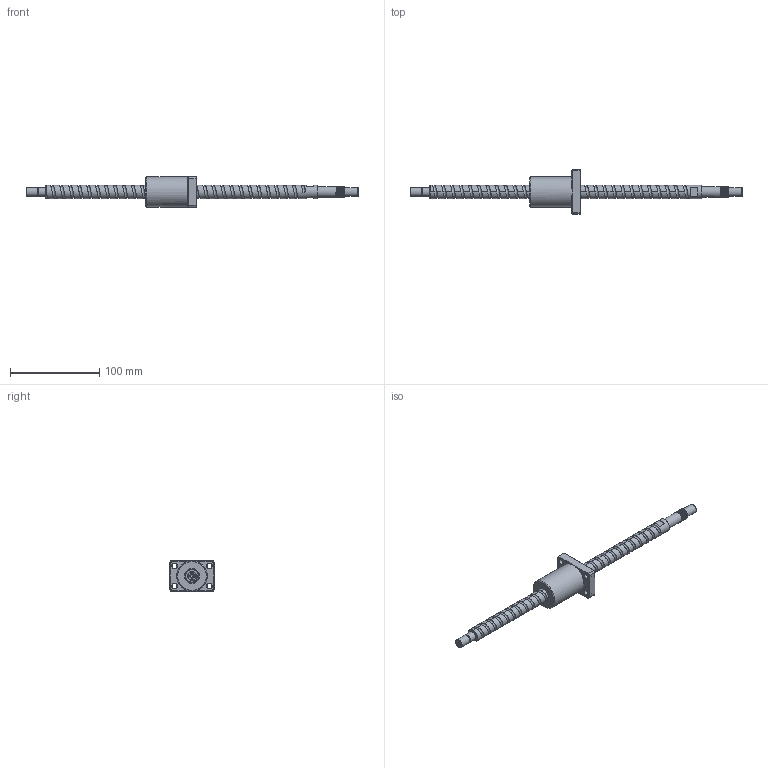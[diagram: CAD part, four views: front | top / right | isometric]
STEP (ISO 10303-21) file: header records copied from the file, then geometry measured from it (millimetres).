
FILE_DESCRIPTION (( 'STEP AP203' ), '1' );
FILE_NAME ('XSVR01510B1DGC5-371-P1.step', '2024-06-03T05:10:17', ( '' ), ( '' ), 'SwSTEP 2.0', 'SolidWorks 2022', '' );
FILE_SCHEMA (( 'CONFIG_CONTROL_DESIGN' ));
Length unit declared in the file: millimetre
Products named in the file (1): XSVR01510B1DGC5-371-P1
Bounding box: 371 x 50 x 34 mm (x, y, z)
Volume: 100211.8 mm3; surface area: 32062.3 mm2
Topology: 2 solids, 2 shells, 159 faces, 425 edges, 276 vertices
Faces by surface type: cylinder 82, plane 43, cone 15, bspline 10, torus 9
Full cylindrical faces by diameter (mm): 4 x1, 4.2 x15, 5 x6, 5.5 x4, 9.5 x4, 9.6 x1, 10 x3, 12 x9, 15 x29, 16.7 x1, 34 x1
Entity records: 16828 total; most frequent: CARTESIAN_POINT 14704, ORIENTED_EDGE 402, DIRECTION 391, EDGE_CURVE 201, AXIS2_PLACEMENT_3D 168, EDGE_LOOP 153, VERTEX_POINT 146, FACE_OUTER_BOUND 120
